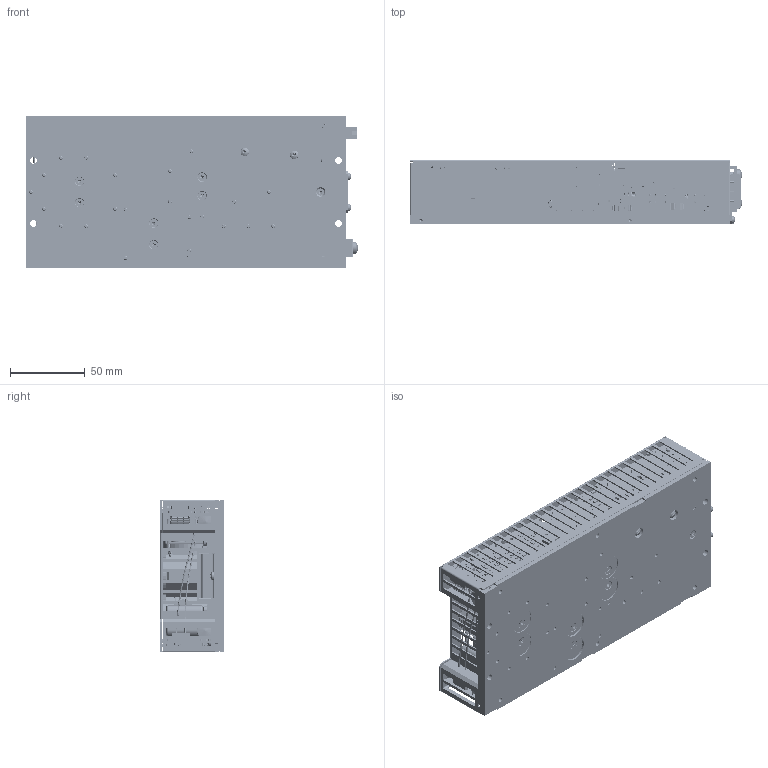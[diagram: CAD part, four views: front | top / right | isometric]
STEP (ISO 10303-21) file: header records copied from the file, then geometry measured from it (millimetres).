
FILE_DESCRIPTION (( 'STEP AP214' ), '1' );
FILE_NAME ('CCHXXXPSXX STEP.STEP', '2011-06-17T10:49:42', ( ' ' ), ( '' ), 'SwSTEP 2.0', 'SolidWorks 2011', '' );
FILE_SCHEMA (( 'AUTOMOTIVE_DESIGN' ));
Length unit declared in the file: millimetre
Products named in the file (147): RM CORE WASHERS_RM12 WITH CUT-OUTS; Busbar LX; L10009303 CCH600 PS12 RATING LABEL; HAZARD LABEL; HT Capacitor Cover; Coil Windings 2; CCH STANDBY FILTER; Wire 0.9mm; 10010684 CCH HT DIFF MODE WINDING+ BASE; Thermostat Housing; THERM_CCH600; OUTPUT BOARD SUB-ASSY; MAIN OUTPUT COPPER^Unit Assembly; Spacer-Clamp MJB; ROD CORE 3mm x 15mm; Coil Windings 3; InputLX-Large; ROD CORE 5mm x 25mm; Busbar LX-otherside; Busbar Support Assembly; Busbar TXc-otherside; PCB Output Rev08; FET Support; Diode Support; Output Busbar; AL100-033; 0.5mm SQ. x 7.2 mm Long; CCH600 Drive_CurrentTX; CAP MKT468 L=26mm W=8mm Height=21mm Pitch=22.5 ; CAP AluElec 10mmDia x 16mmHigh 5mmPitch; 10009343 Drive + Current Moulding CCH; CAP AluElec 6.5mmDia x 11.5mmHigh  3.5mmPitch; Pot - end adjust; Terminal_Output MK2; SCREW CH HD M4_8mm; Buzbar_Connector; Part1^OUTPUT BOARD SUB-ASSY; 10010685 (CCH HT Differential Choke Base); SCREW-PPH_M3x4mm_6lg; CAP AluElec 10mmDia x 24mmHigh 5mmPitch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
Assembly tree (273 placements, depth 5):
  Part1^OUTPUT BOARD SUB-ASSY
  Part3^Unit Assembly
  Part4^Unit Assembly
  Part1^Unit Assembly
  Part2^Unit Assembly
Bounding box: 221.99 x 43.3 x 102 mm (x, y, z)
Volume: 434235.5 mm3; surface area: 395573.2 mm2
Topology: 671 solids, 671 shells, 13110 faces, 30847 edges, 18868 vertices
Faces by surface type: plane 7167, cylinder 3810, torus 1668, cone 320, bspline 78, sphere 67
Entity records: 349316 total; most frequent: CARTESIAN_POINT 58801, DIRECTION 51136, ORIENTED_EDGE 47276, EDGE_CURVE 23638, AXIS2_PLACEMENT_3D 17891, LINE 15354, VECTOR 15354, VERTEX_POINT 14823
